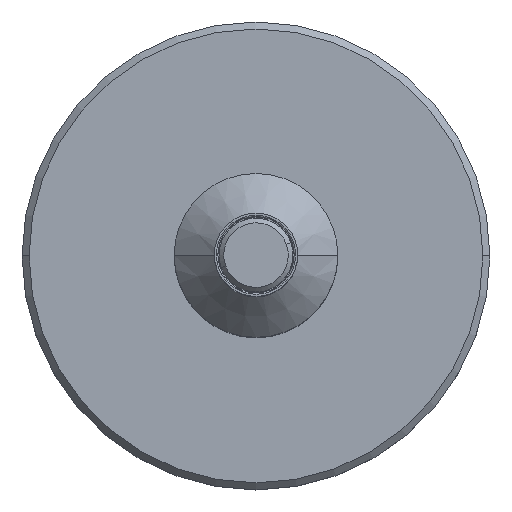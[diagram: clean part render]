
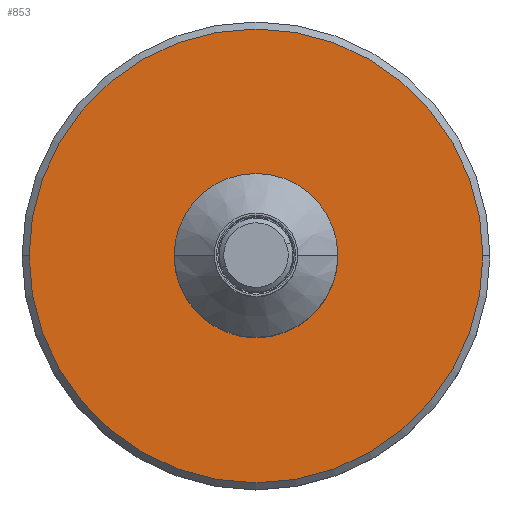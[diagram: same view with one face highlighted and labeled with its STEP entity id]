
A CAD part, top view. The second image highlights one B-rep face of the part: STEP entity #853.
In plain terms, the highlighted planar face has unit normal (0, 0, 1).
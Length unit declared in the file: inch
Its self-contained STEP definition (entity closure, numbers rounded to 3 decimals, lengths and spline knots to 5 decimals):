
#62 = EDGE_LOOP ( 'NONE', ( #1263, #898 ) ) ;
#63 = VERTEX_POINT ( 'NONE', #847 ) ;
#92 = EDGE_LOOP ( 'NONE', ( #1293, #992 ) ) ;
#106 = CARTESIAN_POINT ( 'NONE',  ( 0., 0., -1.45 ) ) ;
#157 = CIRCLE ( 'NONE', #924, 0.485 ) ;
#300 = CIRCLE ( 'NONE', #750, 0.485 ) ;
#337 = AXIS2_PLACEMENT_3D ( 'NONE', #1181, #592, #716 ) ;
#353 = PLANE ( 'NONE',  #337 ) ;
#391 = CARTESIAN_POINT ( 'NONE',  ( 0.485, 0., -1.45 ) ) ;
#436 = DIRECTION ( 'NONE',  ( 0., 0., 1. ) ) ;
#437 = CARTESIAN_POINT ( 'NONE',  ( 0.175, 0., -1.45 ) ) ;
#515 = DIRECTION ( 'NONE',  ( 1., 0., 0. ) ) ;
#579 = VERTEX_POINT ( 'NONE', #437 ) ;
#592 = DIRECTION ( 'NONE',  ( 0., 0., -1. ) ) ;
#595 = CIRCLE ( 'NONE', #1195, 0.175 ) ;
#716 = DIRECTION ( 'NONE',  ( -1., 0., 0. ) ) ;
#750 = AXIS2_PLACEMENT_3D ( 'NONE', #1441, #1322, #1333 ) ;
#765 = EDGE_CURVE ( 'NONE', #579, #63, #595, .T. ) ;
#841 = DIRECTION ( 'NONE',  ( 1., 0., 0. ) ) ;
#847 = CARTESIAN_POINT ( 'NONE',  ( -0.175, 0., -1.45 ) ) ;
#853 = ADVANCED_FACE ( 'NONE', ( #973, #1156 ), #353, .F. ) ;
#854 = EDGE_CURVE ( 'NONE', #1326, #1073, #300, .T. ) ;
#871 = DIRECTION ( 'NONE',  ( 0., 0., 1. ) ) ;
#898 = ORIENTED_EDGE ( 'NONE', *, *, #1210, .F. ) ;
#924 = AXIS2_PLACEMENT_3D ( 'NONE', #982, #871, #515 ) ;
#936 = CARTESIAN_POINT ( 'NONE',  ( -0.485, 0., -1.45 ) ) ;
#973 = FACE_BOUND ( 'NONE', #62, .T. ) ;
#982 = CARTESIAN_POINT ( 'NONE',  ( 0., 0., -1.45 ) ) ;
#992 = ORIENTED_EDGE ( 'NONE', *, *, #1443, .T. ) ;
#1049 = DIRECTION ( 'NONE',  ( 0., 0., 1. ) ) ;
#1073 = VERTEX_POINT ( 'NONE', #391 ) ;
#1156 = FACE_OUTER_BOUND ( 'NONE', #92, .T. ) ;
#1162 = CIRCLE ( 'NONE', #1228, 0.175 ) ;
#1181 = CARTESIAN_POINT ( 'NONE',  ( 0., 0.175, -1.45 ) ) ;
#1195 = AXIS2_PLACEMENT_3D ( 'NONE', #106, #1049, #841 ) ;
#1210 = EDGE_CURVE ( 'NONE', #63, #579, #1162, .T. ) ;
#1228 = AXIS2_PLACEMENT_3D ( 'NONE', #1362, #436, #1473 ) ;
#1263 = ORIENTED_EDGE ( 'NONE', *, *, #765, .F. ) ;
#1293 = ORIENTED_EDGE ( 'NONE', *, *, #854, .T. ) ;
#1322 = DIRECTION ( 'NONE',  ( 0., 0., 1. ) ) ;
#1326 = VERTEX_POINT ( 'NONE', #936 ) ;
#1333 = DIRECTION ( 'NONE',  ( 1., 0., 0. ) ) ;
#1362 = CARTESIAN_POINT ( 'NONE',  ( 0., 0., -1.45 ) ) ;
#1441 = CARTESIAN_POINT ( 'NONE',  ( 0., 0., -1.45 ) ) ;
#1443 = EDGE_CURVE ( 'NONE', #1073, #1326, #157, .T. ) ;
#1473 = DIRECTION ( 'NONE',  ( 1., 0., 0. ) ) ;
